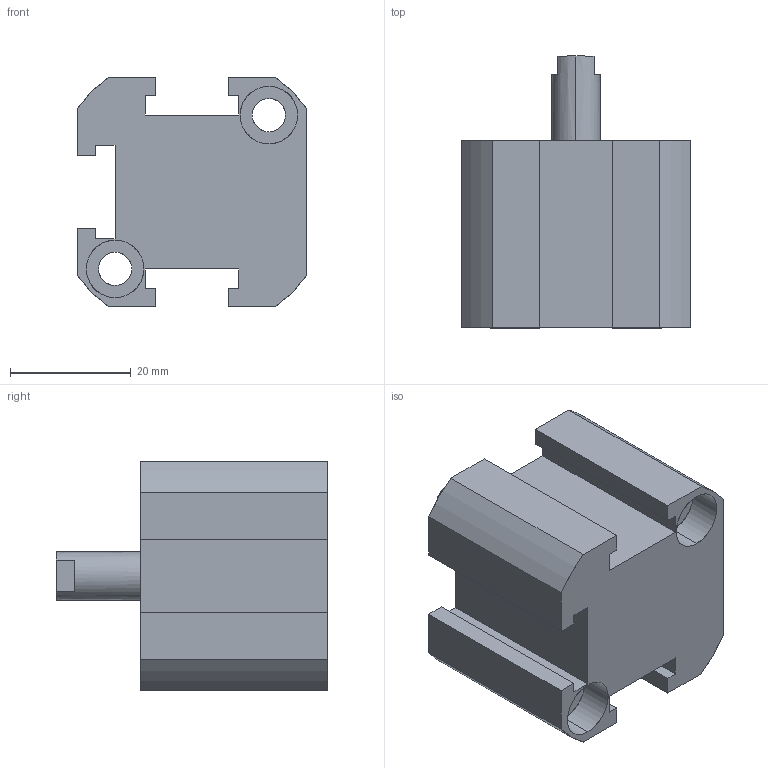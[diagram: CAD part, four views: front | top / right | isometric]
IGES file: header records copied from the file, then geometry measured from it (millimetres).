
Start section: SolidWorks IGES file using analytic representation for surfaces
Global section: file name: C:\Users\Toshiba\Desktop\XC#0-20-10.IGS; native system: SolidWorks 2014; preprocessor: SolidWorks 2014; author: Toshiba; date: 160523.145256; units: millimetre
Bounding box: 38 x 45 x 38 mm (x, y, z)
Surface area: 10520.2 mm2 (no closed solid volume)
Topology: 0 solids, 0 shells, 85 faces, 1211 edges, 1207 vertices
Faces by surface type: bspline 44, revolution 41
